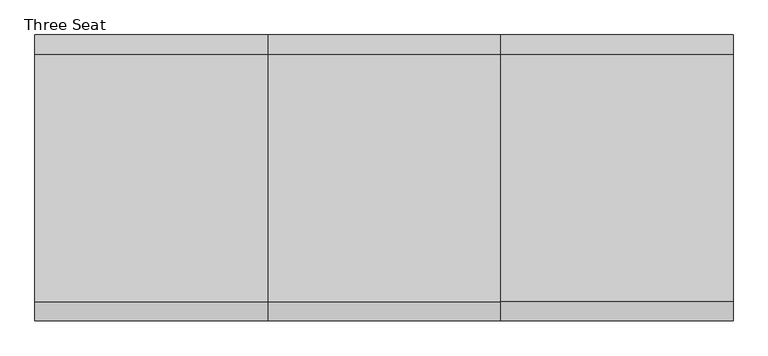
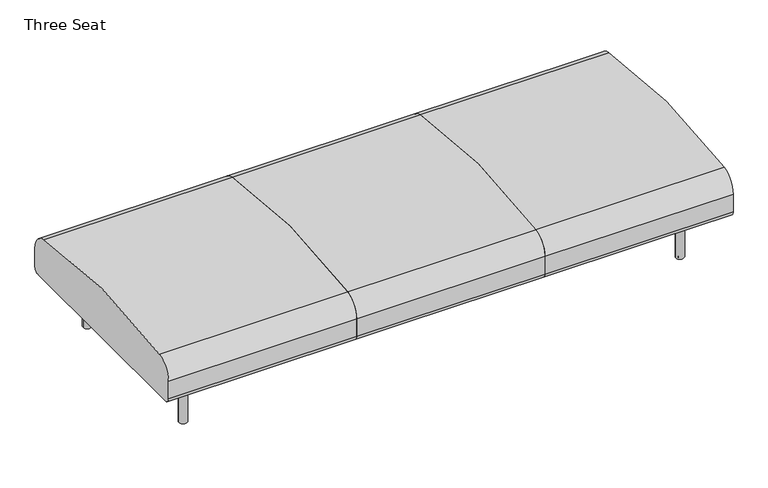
"""IFC4 building model written with IfcOpenShell, lengths in millimetres: furniture geometry, Coalesse_AM_Seating_LoungeChair_Sistema_LegBase_ThreeSeat : Three Seat."""

from ifc_helpers import new_model, si_unit, point, frame, frame_2d, origin, origin_with_axes, place, context, project, spatial, polyline, circle_curve, trimmed, segment, composite_curve, outline, extrude, source, transform, mapped, element, save


def three_seat_ff4ae967(model_context):
    return source(origin(), model_context, "Body", "SweptSolid", [
        extrude(outline(composite_curve([segment(trimmed(circle_curve(frame_2d((-438.9184381, 226.822)), 22.352), [point((-438.9184381, 204.47))], [point((-461.2704381, 226.822))], False, "CARTESIAN"), True, "CONTINUOUS"), segment(polyline([(-461.2704381, 226.822), (-461.2704381, 301.4421993)]), True, "CONTINUOUS"), segment(trimmed(circle_curve(frame_2d((-385.0704381, 301.4421993)), 76.2), [point((-461.2704381, 301.4421993))], [point((-398.9279534, 376.3715612))], False, "CARTESIAN"), True, "CONTINUOUS"), segment(trimmed(circle_curve(frame_2d((-0.3717831, -1778.6727457)), 2191.5891461), [point((-398.9279534, 376.3715612))], [point((397.0993513, 376.5719464))], False, "CARTESIAN"), True, "CONTINUOUS"), segment(trimmed(circle_curve(frame_2d((383.2795619, 301.6356173)), 76.2), [point((397.0993513, 376.5719464))], [point((459.4795619, 301.6356173))], False, "CARTESIAN"), True, "CONTINUOUS"), segment(polyline([(459.4795619, 301.6356173), (459.4795619, 226.7871991)]), True, "CONTINUOUS"), segment(trimmed(circle_curve(frame_2d((437.1623628, 226.7871991)), 22.3171991), [point((459.4795619, 226.7871991))], [point((437.1623628, 204.47))], False, "CARTESIAN"), True, "CONTINUOUS"), segment(polyline([(437.1623628, 204.47), (-438.9184381, 204.47)]), True, "CONTINUOUS")], self_intersect=False)), frame((-374.8034773, 0.0, 0.0), z_axis=(1.0, 0.0, 0.0), x_axis=(0.0, 1.0, 0.0)), (0.0, 0.0, 1.0), 749.3),
        extrude(outline(composite_curve([segment(trimmed(circle_curve(frame_2d((-438.9184381, 226.822)), 22.352), [point((-438.9184381, 204.47))], [point((-461.2704381, 226.822))], False, "CARTESIAN"), True, "CONTINUOUS"), segment(polyline([(-461.2704381, 226.822), (-461.2704381, 301.4421993)]), True, "CONTINUOUS"), segment(trimmed(circle_curve(frame_2d((-385.0704381, 301.4421993)), 76.2), [point((-461.2704381, 301.4421993))], [point((-398.9279534, 376.3715612))], False, "CARTESIAN"), True, "CONTINUOUS"), segment(trimmed(circle_curve(frame_2d((-0.3717831, -1778.6727457)), 2191.5891461), [point((-398.9279534, 376.3715612))], [point((397.0993513, 376.5719464))], False, "CARTESIAN"), True, "CONTINUOUS"), segment(trimmed(circle_curve(frame_2d((383.2795619, 301.6356173)), 76.2), [point((397.0993513, 376.5719464))], [point((459.4795619, 301.6356173))], False, "CARTESIAN"), True, "CONTINUOUS"), segment(polyline([(459.4795619, 301.6356173), (459.4795619, 226.7871991)]), True, "CONTINUOUS"), segment(trimmed(circle_curve(frame_2d((437.1623628, 226.7871991)), 22.3171991), [point((459.4795619, 226.7871991))], [point((437.1623628, 204.47))], False, "CARTESIAN"), True, "CONTINUOUS"), segment(polyline([(437.1623628, 204.47), (-438.9184381, 204.47)]), True, "CONTINUOUS")], self_intersect=False)), frame((374.4965227, 0.0, 0.0), z_axis=(1.0, 0.0, 0.0), x_axis=(0.0, 1.0, 0.0)), (0.0, 0.0, 1.0), 749.3),
        extrude(outline(composite_curve([segment(trimmed(circle_curve(frame_2d((-438.9184381, 226.822)), 22.352), [point((-438.9184381, 204.47))], [point((-461.2704381, 226.822))], False, "CARTESIAN"), True, "CONTINUOUS"), segment(polyline([(-461.2704381, 226.822), (-461.2704381, 301.4421993)]), True, "CONTINUOUS"), segment(trimmed(circle_curve(frame_2d((-385.0704381, 301.4421993)), 76.2), [point((-461.2704381, 301.4421993))], [point((-398.9279534, 376.3715612))], False, "CARTESIAN"), True, "CONTINUOUS"), segment(trimmed(circle_curve(frame_2d((-0.3717831, -1778.6727457)), 2191.5891461), [point((-398.9279534, 376.3715612))], [point((397.0993513, 376.5719464))], False, "CARTESIAN"), True, "CONTINUOUS"), segment(trimmed(circle_curve(frame_2d((383.2795619, 301.6356173)), 76.2), [point((397.0993513, 376.5719464))], [point((459.4795619, 301.6356173))], False, "CARTESIAN"), True, "CONTINUOUS"), segment(polyline([(459.4795619, 301.6356173), (459.4795619, 226.7871991)]), True, "CONTINUOUS"), segment(trimmed(circle_curve(frame_2d((437.1623628, 226.7871991)), 22.3171991), [point((459.4795619, 226.7871991))], [point((437.1623628, 204.47))], False, "CARTESIAN"), True, "CONTINUOUS"), segment(polyline([(437.1623628, 204.47), (-438.9184381, 204.47)]), True, "CONTINUOUS")], self_intersect=False)), frame((1123.7965227, 0.0, 0.0), z_axis=(1.0, 0.0, 0.0), x_axis=(0.0, 1.0, 0.0)), (0.0, 0.0, 1.0), 749.3),
        extrude(outline(composite_curve([segment(trimmed(circle_curve(frame_2d((1738.4765227, 335.9943389)), 6.096), [point((1744.5725227, 335.9943389))], [point((1732.3805227, 335.9943389))], False, "CARTESIAN"), True, "CONTINUOUS"), segment(trimmed(circle_curve(frame_2d((1738.4765227, 335.9943389)), 6.096), [point((1732.3805227, 335.9943389))], [point((1744.5725227, 335.9943389))], False, "CARTESIAN"), True, "CONTINUOUS")], self_intersect=False)), origin_with_axes(), (0.0, 0.0, 1.0), 4.3662291),
        extrude(outline(composite_curve([segment(trimmed(circle_curve(frame_2d((1738.4765227, -327.2630889)), 6.096), [point((1744.5725227, -327.2630889))], [point((1732.3805227, -327.2630889))], False, "CARTESIAN"), True, "CONTINUOUS"), segment(trimmed(circle_curve(frame_2d((1738.4765227, -327.2630889)), 6.096), [point((1732.3805227, -327.2630889))], [point((1744.5725227, -327.2630889))], False, "CARTESIAN"), True, "CONTINUOUS")], self_intersect=False)), origin_with_axes(), (0.0, 0.0, 1.0), 4.3662291),
        extrude(outline(composite_curve([segment(polyline([(157.0399209, 1751.056375), (201.7356243, 1751.056375)]), True, "CONTINUOUS"), segment(trimmed(circle_curve(frame_2d((201.7356243, 1748.008375)), 3.048), [point((201.7356243, 1751.056375))], [point((204.7836243, 1748.008375))], False, "CARTESIAN"), True, "CONTINUOUS"), segment(polyline([(204.7836243, 1748.008375), (204.7836243, 1728.666199)]), True, "CONTINUOUS"), segment(trimmed(circle_curve(frame_2d((201.7356243, 1728.666199)), 3.048), [point((204.7836243, 1728.666199))], [point((201.7356243, 1725.618199))], False, "CARTESIAN"), True, "CONTINUOUS"), segment(polyline([(201.7356243, 1725.618199), (157.1249936, 1725.618199)]), True, "CONTINUOUS"), segment(trimmed(circle_curve(frame_2d((157.1249936, 1728.7512718)), 3.1330728), [point((157.1249936, 1725.618199))], [point((153.9919209, 1728.7512718))], False, "CARTESIAN"), True, "CONTINUOUS"), segment(polyline([(153.9919209, 1728.7512718), (153.9919209, 1748.008375)]), True, "CONTINUOUS"), segment(trimmed(circle_curve(frame_2d((157.0399209, 1748.008375)), 3.048), [point((153.9919209, 1748.008375))], [point((157.0399209, 1751.056375))], False, "CARTESIAN"), True, "CONTINUOUS")], self_intersect=False)), frame((0.0, 222.3519802, 0.0), z_axis=(0.0, 1.0, 0.0), x_axis=(0.0, 0.0, 1.0)), (0.0, 0.0, 1.0), 92.6273161),
        extrude(outline(composite_curve([segment(polyline([(157.0399209, 1751.056375), (201.7356243, 1751.056375)]), True, "CONTINUOUS"), segment(trimmed(circle_curve(frame_2d((201.7356243, 1748.008375)), 3.048), [point((201.7356243, 1751.056375))], [point((204.7836243, 1748.008375))], False, "CARTESIAN"), True, "CONTINUOUS"), segment(polyline([(204.7836243, 1748.008375), (204.7836243, 1728.666199)]), True, "CONTINUOUS"), segment(trimmed(circle_curve(frame_2d((201.7356243, 1728.666199)), 3.048), [point((204.7836243, 1728.666199))], [point((201.7356243, 1725.618199))], False, "CARTESIAN"), True, "CONTINUOUS"), segment(polyline([(201.7356243, 1725.618199), (157.1249936, 1725.618199)]), True, "CONTINUOUS"), segment(trimmed(circle_curve(frame_2d((157.1249936, 1728.7512718)), 3.1330728), [point((157.1249936, 1725.618199))], [point((153.9919209, 1728.7512718))], False, "CARTESIAN"), True, "CONTINUOUS"), segment(polyline([(153.9919209, 1728.7512718), (153.9919209, 1748.008375)]), True, "CONTINUOUS"), segment(trimmed(circle_curve(frame_2d((157.0399209, 1748.008375)), 3.048), [point((153.9919209, 1748.008375))], [point((157.0399209, 1751.056375))], False, "CARTESIAN"), True, "CONTINUOUS")], self_intersect=False)), frame((0.0, -314.9792963, 0.0), z_axis=(0.0, 1.0, 0.0), x_axis=(0.0, 0.0, 1.0)), (0.0, 0.0, 1.0), 92.6273161),
        extrude(outline(composite_curve([segment(trimmed(circle_curve(frame_2d((176.3356606, 1715.8259944)), 3.048), [point((179.3836606, 1715.8259944))], [point((176.3356606, 1712.7779944))], False, "CARTESIAN"), True, "CONTINUOUS"), segment(polyline([(176.3356606, 1712.7779944), (157.0399209, 1712.7779944)]), True, "CONTINUOUS"), segment(trimmed(circle_curve(frame_2d((157.0399209, 1715.8259944)), 3.048), [point((157.0399209, 1712.7779944))], [point((153.9919209, 1715.8259944))], False, "CARTESIAN"), True, "CONTINUOUS"), segment(polyline([(153.9919209, 1715.8259944), (153.9919209, 1760.5135501)]), True, "CONTINUOUS"), segment(trimmed(circle_curve(frame_2d((157.056462, 1760.5135501)), 3.0645412), [point((153.9919209, 1760.5135501))], [point((157.056462, 1763.5780913))], False, "CARTESIAN"), True, "CONTINUOUS"), segment(polyline([(157.056462, 1763.5780913), (176.3356606, 1763.5780913)]), True, "CONTINUOUS"), segment(trimmed(circle_curve(frame_2d((176.3356606, 1760.5300913)), 3.048), [point((176.3356606, 1763.5780913))], [point((179.3836606, 1760.5300913))], False, "CARTESIAN"), True, "CONTINUOUS"), segment(polyline([(179.3836606, 1760.5300913), (179.3836606, 1715.8259944)]), True, "CONTINUOUS")], self_intersect=False)), frame((0.0, -222.3519802, 0.0), z_axis=(0.0, 1.0, 0.0), x_axis=(0.0, 0.0, 1.0)), (0.0, 0.0, 1.0), 444.7039604),
        extrude(outline(composite_curve([segment(trimmed(circle_curve(frame_2d((1738.4765227, 332.3095741)), 16.51), [point((1754.9865227, 332.3095741))], [point((1721.9665227, 332.3095741))], False, "CARTESIAN"), True, "CONTINUOUS"), segment(trimmed(circle_curve(frame_2d((1738.4765227, 332.3095741)), 16.51), [point((1721.9665227, 332.3095741))], [point((1754.9865227, 332.3095741))], False, "CARTESIAN"), True, "CONTINUOUS")], self_intersect=False)), frame((0.0, 0.0, 4.3662291), z_axis=(0.0, 0.0, 1.0), x_axis=(1.0, 0.0, 0.0)), (0.0, 0.0, 1.0), 200.1037709),
        extrude(outline(composite_curve([segment(trimmed(circle_curve(frame_2d((1738.0796477, -327.5470741)), 16.51), [point((1754.5896477, -327.5470741))], [point((1721.5696477, -327.5470741))], False, "CARTESIAN"), True, "CONTINUOUS"), segment(trimmed(circle_curve(frame_2d((1738.0796477, -327.5470741)), 16.51), [point((1721.5696477, -327.5470741))], [point((1754.5896477, -327.5470741))], False, "CARTESIAN"), True, "CONTINUOUS")], self_intersect=False)), frame((0.0, 0.0, 4.3662291), z_axis=(0.0, 0.0, 1.0), x_axis=(1.0, 0.0, 0.0)), (0.0, 0.0, 1.0), 200.1037709),
        extrude(outline(composite_curve([segment(trimmed(circle_curve(frame_2d((-240.1834773, 335.9943389)), 6.096), [point((-246.2794773, 335.9943389))], [point((-234.0874773, 335.9943389))], False, "CARTESIAN"), True, "CONTINUOUS"), segment(trimmed(circle_curve(frame_2d((-240.1834773, 335.9943389)), 6.096), [point((-234.0874773, 335.9943389))], [point((-246.2794773, 335.9943389))], False, "CARTESIAN"), True, "CONTINUOUS")], self_intersect=False)), origin_with_axes(), (0.0, 0.0, 1.0), 4.3662291),
        extrude(outline(composite_curve([segment(trimmed(circle_curve(frame_2d((-240.1834773, -327.2630889)), 6.096), [point((-246.2794773, -327.2630889))], [point((-234.0874773, -327.2630889))], False, "CARTESIAN"), True, "CONTINUOUS"), segment(trimmed(circle_curve(frame_2d((-240.1834773, -327.2630889)), 6.096), [point((-234.0874773, -327.2630889))], [point((-246.2794773, -327.2630889))], False, "CARTESIAN"), True, "CONTINUOUS")], self_intersect=False)), origin_with_axes(), (0.0, 0.0, 1.0), 4.3662291),
        extrude(outline(composite_curve([segment(trimmed(circle_curve(frame_2d((157.0399209, -249.7153296)), 3.048), [point((157.0399209, -252.7633296))], [point((153.9919209, -249.7153296))], False, "CARTESIAN"), True, "CONTINUOUS"), segment(polyline([(153.9919209, -249.7153296), (153.9919209, -230.4582264)]), True, "CONTINUOUS"), segment(trimmed(circle_curve(frame_2d((157.1249936, -230.4582264)), 3.1330728), [point((153.9919209, -230.4582264))], [point((157.1249936, -227.3251537))], False, "CARTESIAN"), True, "CONTINUOUS"), segment(polyline([(157.1249936, -227.3251537), (201.7356243, -227.3251537)]), True, "CONTINUOUS"), segment(trimmed(circle_curve(frame_2d((201.7356243, -230.3731537)), 3.048), [point((201.7356243, -227.3251537))], [point((204.7836243, -230.3731537))], False, "CARTESIAN"), True, "CONTINUOUS"), segment(polyline([(204.7836243, -230.3731537), (204.7836243, -249.7153296)]), True, "CONTINUOUS"), segment(trimmed(circle_curve(frame_2d((201.7356243, -249.7153296)), 3.048), [point((204.7836243, -249.7153296))], [point((201.7356243, -252.7633296))], False, "CARTESIAN"), True, "CONTINUOUS"), segment(polyline([(201.7356243, -252.7633296), (157.0399209, -252.7633296)]), True, "CONTINUOUS")], self_intersect=False)), frame((0.0, 222.3519802, 0.0), z_axis=(0.0, 1.0, 0.0), x_axis=(0.0, 0.0, 1.0)), (0.0, 0.0, 1.0), 92.6273161),
        extrude(outline(composite_curve([segment(trimmed(circle_curve(frame_2d((157.0399209, -249.7153296)), 3.048), [point((157.0399209, -252.7633296))], [point((153.9919209, -249.7153296))], False, "CARTESIAN"), True, "CONTINUOUS"), segment(polyline([(153.9919209, -249.7153296), (153.9919209, -230.4582264)]), True, "CONTINUOUS"), segment(trimmed(circle_curve(frame_2d((157.1249936, -230.4582264)), 3.1330728), [point((153.9919209, -230.4582264))], [point((157.1249936, -227.3251537))], False, "CARTESIAN"), True, "CONTINUOUS"), segment(polyline([(157.1249936, -227.3251537), (201.7356243, -227.3251537)]), True, "CONTINUOUS"), segment(trimmed(circle_curve(frame_2d((201.7356243, -230.3731537)), 3.048), [point((201.7356243, -227.3251537))], [point((204.7836243, -230.3731537))], False, "CARTESIAN"), True, "CONTINUOUS"), segment(polyline([(204.7836243, -230.3731537), (204.7836243, -249.7153296)]), True, "CONTINUOUS"), segment(trimmed(circle_curve(frame_2d((201.7356243, -249.7153296)), 3.048), [point((204.7836243, -249.7153296))], [point((201.7356243, -252.7633296))], False, "CARTESIAN"), True, "CONTINUOUS"), segment(polyline([(201.7356243, -252.7633296), (157.0399209, -252.7633296)]), True, "CONTINUOUS")], self_intersect=False)), frame((0.0, -314.9792963, 0.0), z_axis=(0.0, 1.0, 0.0), x_axis=(0.0, 0.0, 1.0)), (0.0, 0.0, 1.0), 92.6273161),
        extrude(outline(composite_curve([segment(polyline([(179.3836606, -217.532949), (179.3836606, -262.2370459)]), True, "CONTINUOUS"), segment(trimmed(circle_curve(frame_2d((176.3356606, -262.2370459)), 3.048), [point((179.3836606, -262.2370459))], [point((176.3356606, -265.2850459))], False, "CARTESIAN"), True, "CONTINUOUS"), segment(polyline([(176.3356606, -265.2850459), (157.056462, -265.2850459)]), True, "CONTINUOUS"), segment(trimmed(circle_curve(frame_2d((157.056462, -262.2205047)), 3.0645412), [point((157.056462, -265.2850459))], [point((153.9919209, -262.2205047))], False, "CARTESIAN"), True, "CONTINUOUS"), segment(polyline([(153.9919209, -262.2205047), (153.9919209, -217.532949)]), True, "CONTINUOUS"), segment(trimmed(circle_curve(frame_2d((157.0399209, -217.532949)), 3.048), [point((153.9919209, -217.532949))], [point((157.0399209, -214.484949))], False, "CARTESIAN"), True, "CONTINUOUS"), segment(polyline([(157.0399209, -214.484949), (176.3356606, -214.484949)]), True, "CONTINUOUS"), segment(trimmed(circle_curve(frame_2d((176.3356606, -217.532949)), 3.048), [point((176.3356606, -214.484949))], [point((179.3836606, -217.532949))], False, "CARTESIAN"), True, "CONTINUOUS")], self_intersect=False)), frame((0.0, -222.3519802, 0.0), z_axis=(0.0, 1.0, 0.0), x_axis=(0.0, 0.0, 1.0)), (0.0, 0.0, 1.0), 444.7039604),
        extrude(outline(composite_curve([segment(trimmed(circle_curve(frame_2d((-240.1834773, 332.3095741)), 16.51), [point((-256.6934773, 332.3095741))], [point((-223.6734773, 332.3095741))], False, "CARTESIAN"), True, "CONTINUOUS"), segment(trimmed(circle_curve(frame_2d((-240.1834773, 332.3095741)), 16.51), [point((-223.6734773, 332.3095741))], [point((-256.6934773, 332.3095741))], False, "CARTESIAN"), True, "CONTINUOUS")], self_intersect=False)), frame((0.0, 0.0, 4.3662291), z_axis=(0.0, 0.0, 1.0), x_axis=(1.0, 0.0, 0.0)), (0.0, 0.0, 1.0), 200.1037709),
        extrude(outline(composite_curve([segment(trimmed(circle_curve(frame_2d((-239.7866023, -327.5470741)), 16.51), [point((-256.2966023, -327.5470741))], [point((-223.2766023, -327.5470741))], False, "CARTESIAN"), True, "CONTINUOUS"), segment(trimmed(circle_curve(frame_2d((-239.7866023, -327.5470741)), 16.51), [point((-223.2766023, -327.5470741))], [point((-256.2966023, -327.5470741))], False, "CARTESIAN"), True, "CONTINUOUS")], self_intersect=False)), frame((0.0, 0.0, 4.3662291), z_axis=(0.0, 0.0, 1.0), x_axis=(1.0, 0.0, 0.0)), (0.0, 0.0, 1.0), 200.1037709),
    ])


if __name__ == "__main__":
    model = new_model("IFC4")
    model_context = context("Model", 3, world=origin())
    ifc_project = project(units=[si_unit("LENGTHUNIT", "METRE", prefix="MILLI")], contexts=[model_context])
    site = spatial("IfcSite", under=ifc_project)
    building = spatial("IfcBuilding", under=site)
    placement = place(None, origin())
    three_seat_shape = three_seat_ff4ae967(model_context)
    element("IfcFurniture", 1, ObjectType="Coalesse_AM_Seating_LoungeChair_Sistema_LegBase_ThreeSeat : Three Seat", at=placement, inside=building, context=model_context, shape_type="MappedRepresentation", body=[
        mapped(three_seat_shape, transform((0.0, 0.0, 0.0), x_axis=(1.0, 0.0, 0.0), y_axis=(0.0, 1.0, 0.0), z_axis=(0.0, 0.0, 1.0))),
    ])
    save(model, "model.ifc")
